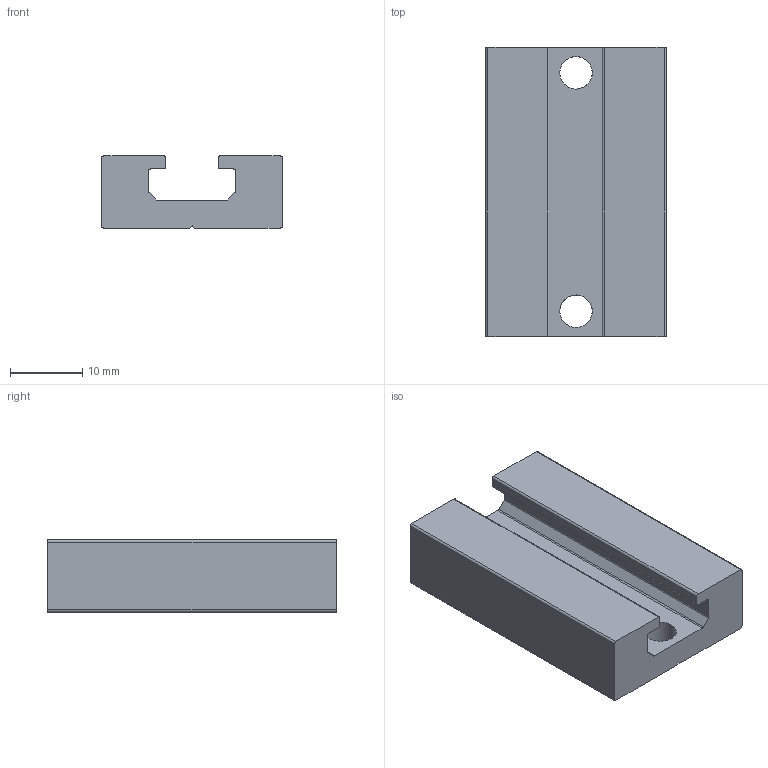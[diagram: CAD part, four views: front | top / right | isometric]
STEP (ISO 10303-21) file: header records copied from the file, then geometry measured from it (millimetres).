
FILE_DESCRIPTION(('STEP AP214'),'1');
FILE_NAME('BB2T-L40.stp','2016-10-18T10:41:53',(' '),(' '),'Spatial InterOp 3D',' ',' ');
FILE_SCHEMA(('automotive_design'));
Length unit declared in the file: millimetre
Products named in the file (1): BB2T-L40
Bounding box: 25 x 40 x 10 mm (x, y, z)
Volume: 7299.2 mm3; surface area: 3992.3 mm2
Topology: 1 solids, 1 shells, 39 faces, 117 edges, 78 vertices
Faces by surface type: plane 23, cylinder 16
Full cylindrical faces by diameter (mm): 4.5 x2
Entity records: 1641 total; most frequent: DIRECTION 235, CARTESIAN_POINT 229, ORIENTED_EDGE 226, EDGE_CURVE 113, AXIS2_PLACEMENT_3D 82, VERTEX_POINT 76, LINE 71, VECTOR 71
